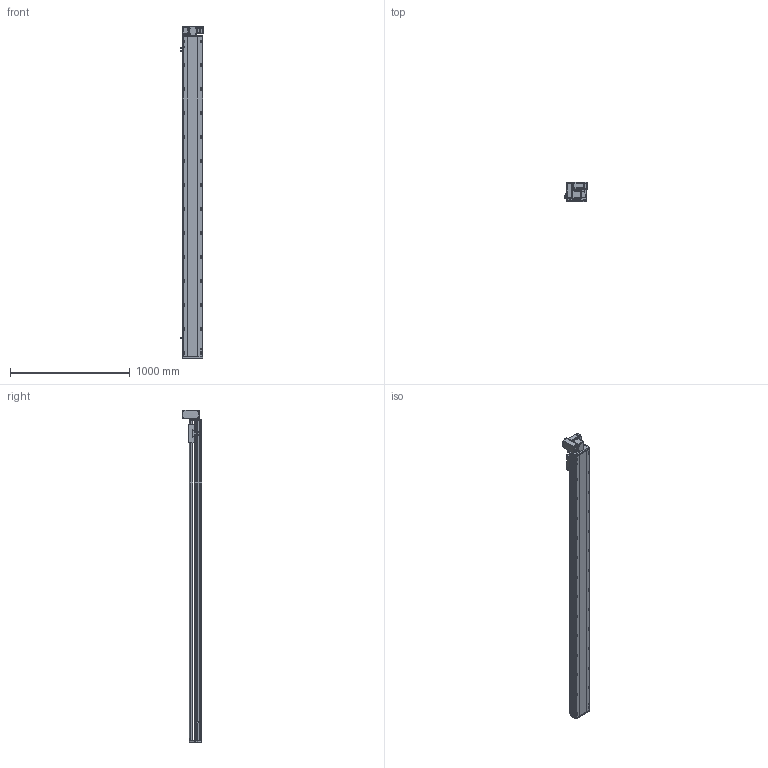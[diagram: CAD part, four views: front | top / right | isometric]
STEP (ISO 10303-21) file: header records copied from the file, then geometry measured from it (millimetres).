
FILE_DESCRIPTION (( 'STEP AP214' ), '1' );
FILE_NAME ('RTB17S-XX-2400-LW-M40-C4.STEP', '2025-12-11T07:16:46', ( '' ), ( '' ), 'SwSTEP 2.0', 'SolidWorks 2018', '' );
FILE_SCHEMA (( 'AUTOMOTIVE_DESIGN' ));
Length unit declared in the file: millimetre
Products named in the file (14): RTH13-BL-012覜茼え俋离^RTB17S-XX-XX-LW-M40-C4; RTB17S-LW-々湍釱蚾饜-400W^RTB17S-XX-XX-LW-M40-C4; RTB17S-XX-2400-LW-M40-C4; RTB17S-L-004佪裝蹟譫蟀諉釱^RTB17S-XX-XX-LW-M40-C4; RTB14-L-017P^RTB17S-LW-々湍釱蚾饜-400W_RTB17S-XX-XX-LW-M40-C4; 400W侜督萇儂^RTB17S-XX-XX-LW-M40-C4; RTB14-L-018P^RTB17S-LW-々湍釱蚾饜-400W_RTB17S-XX-XX-LW-M40-C4; RTB17-R-011菁釱^RTB17S-XX-XX-LW-M40-C4; RTB17S-L-001耜醱啣^RTB17S-XX-XX-LW-M40-C4; OMRON EE-SX672 传感器^RTB17S-XX-XX-LW-M40-C4; RTB17S-L-007奻裔^RTB17S-XX-XX-LW-M40-C4; RTB17S-L-014-T20--々湍釱^RTB17S-LW-々湍釱蚾饜-400W_RTB17S-XX-XX-LW-M40-C4; RTB14-L-005P--轴承塑胶压盖^RTB17S-LW-皮带座装配-400W_RTB17S-XX-XX-LW-M40-C4; RTB14-L-008-M20--萇儂啣^RTB17S-LW-々湍釱蚾饜-400W_RTB17S-XX-XX-LW-M40-C4
Assembly tree (16 placements, depth 3):
  RTB17S-XX-2400-LW-M40-C4
    RTB17-R-011菁釱^RTB17S-XX-XX-LW-M40-C4
    RTB17S-L-007奻裔^RTB17S-XX-XX-LW-M40-C4
    OMRON EE-SX672 传感器^RTB17S-XX-XX-LW-M40-C4  x3
    RTB17S-L-001耜醱啣^RTB17S-XX-XX-LW-M40-C4
    400W侜督萇儂^RTB17S-XX-XX-LW-M40-C4
    RTB17S-L-004佪裝蹟譫蟀諉釱^RTB17S-XX-XX-LW-M40-C4
    RTH13-BL-012覜茼え俋离^RTB17S-XX-XX-LW-M40-C4
    RTB17S-LW-々湍釱蚾饜-400W^RTB17S-XX-XX-LW-M40-C4
      RTB17S-L-014-T20--々湍釱^RTB17S-LW-々湍釱蚾饜-400W_RTB17S-XX-XX-LW-M40-C4
      RTB14-L-005P--轴承塑胶压盖^RTB17S-LW-皮带座装配-400W_RTB17S-XX-XX-LW-M40-C4
      RTB14-L-008-M20--萇儂啣^RTB17S-LW-々湍釱蚾饜-400W_RTB17S-XX-XX-LW-M40-C4
      RTB14-L-017P^RTB17S-LW-々湍釱蚾饜-400W_RTB17S-XX-XX-LW-M40-C4  x2
      RTB14-L-018P^RTB17S-LW-々湍釱蚾饜-400W_RTB17S-XX-XX-LW-M40-C4
Bounding box: 186 x 160.5 x 2772.5 mm (x, y, z)
Volume: 23793853.5 mm3; surface area: 2742173.5 mm2
Topology: 15 solids, 15 shells, 2317 faces, 6465 edges, 4221 vertices
Faces by surface type: plane 1082, cylinder 787, bspline 301, cone 139, torus 8
Entity records: 68009 total; most frequent: CARTESIAN_POINT 19270, ORIENTED_EDGE 9774, DIRECTION 9026, EDGE_CURVE 4887, VERTEX_POINT 3209, AXIS2_PLACEMENT_3D 3139, LINE 2748, VECTOR 2748
